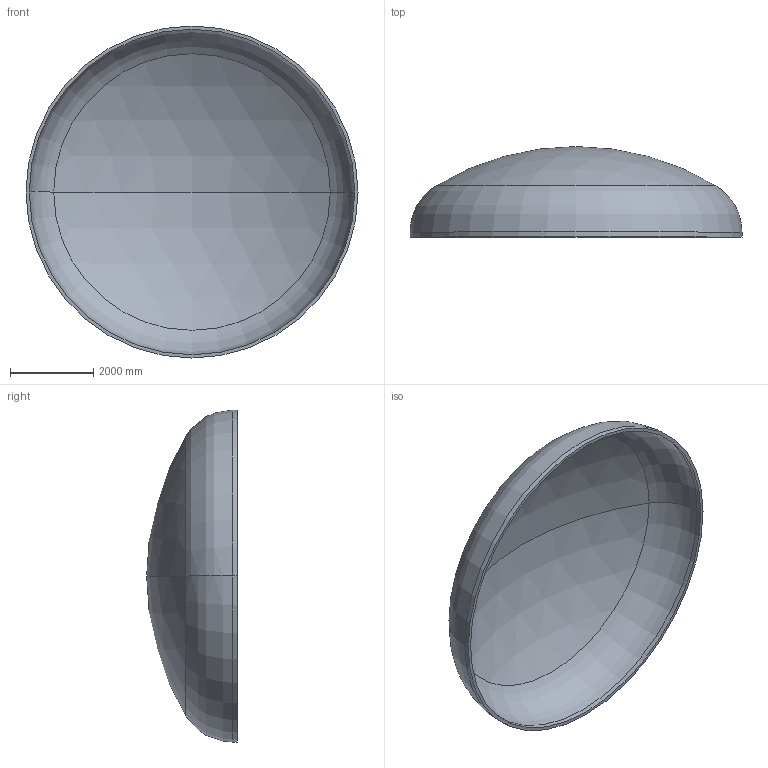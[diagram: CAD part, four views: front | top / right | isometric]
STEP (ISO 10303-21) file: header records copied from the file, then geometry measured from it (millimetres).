
FILE_DESCRIPTION (( 'STEP AP203' ), '1' );
FILE_NAME ('DIN 28013 Korbbogenform_-_Boden DIN 28013 - 8000 x 120 - I - s=78.step', '2016-07-04T11:03:54', ( '' ), ( '' ), 'SwSTEP 2.0', 'SolidWorks 2013', '' );
FILE_SCHEMA (( 'CONFIG_CONTROL_DESIGN' ));
Length unit declared in the file: millimetre
Products named in the file (1): DIN 28013 Korbbogenform_-_Boden DIN 28013 - 8000 x 120 - I - s=78
Bounding box: 8000 x 2184.15 x 8000 mm (x, y, z)
Volume: 5591801991.1 mm3; surface area: 145333465.3 mm2
Topology: 1 solids, 1 shells, 13 faces, 24 edges, 14 vertices
Faces by surface type: torus 4, cylinder 4, sphere 4, plane 1
Entity records: 407 total; most frequent: DIRECTION 72, CARTESIAN_POINT 52, ORIENTED_EDGE 48, AXIS2_PLACEMENT_3D 34, EDGE_CURVE 24, CIRCLE 20, VERTEX_POINT 14, EDGE_LOOP 14
